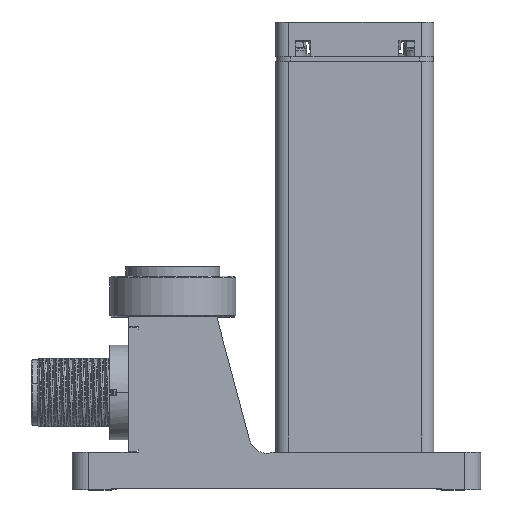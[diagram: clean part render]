
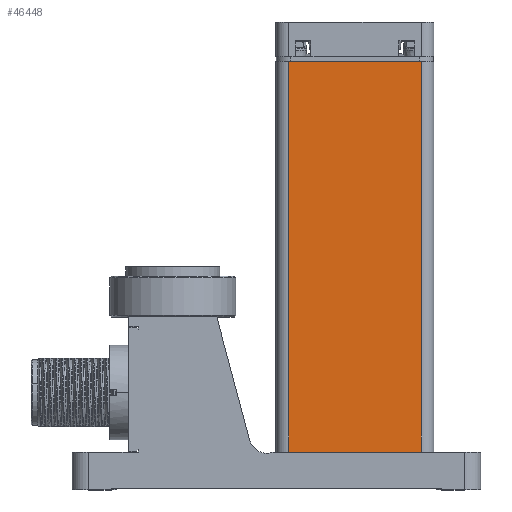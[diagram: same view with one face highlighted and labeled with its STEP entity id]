
A CAD part, top view. The second image highlights one B-rep face of the part: STEP entity #46448.
In plain terms, the highlighted planar face has unit normal (0, 0, 1).
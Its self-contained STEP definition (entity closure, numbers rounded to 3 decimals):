
#109=DIRECTION('',(1.,0.,0.));
#110=VECTOR('',#109,21.15);
#111=CARTESIAN_POINT('',(-10.575,-9.7,12.575));
#112=LINE('',#111,#110);
#14314=DIRECTION('',(0.,-1.,0.));
#14315=VECTOR('',#14314,62.2);
#14316=CARTESIAN_POINT('',(-10.575,52.5,12.575));
#14317=LINE('',#14316,#14315);
#14318=DIRECTION('',(-1.,0.,0.));
#14319=VECTOR('',#14318,21.15);
#14320=CARTESIAN_POINT('',(10.575,52.5,12.575));
#14321=LINE('',#14320,#14319);
#14322=DIRECTION('',(0.,1.,0.));
#14323=VECTOR('',#14322,62.2);
#14324=CARTESIAN_POINT('',(10.575,-9.7,12.575));
#14325=LINE('',#14324,#14323);
#19644=CARTESIAN_POINT('',(10.575,52.5,12.575));
#19646=VERTEX_POINT('',#19644);
#19653=CARTESIAN_POINT('',(-10.575,52.5,12.575));
#19655=VERTEX_POINT('',#19653);
#19672=CARTESIAN_POINT('',(-10.575,-9.7,12.575));
#19673=CARTESIAN_POINT('',(10.575,-9.7,12.575));
#19674=VERTEX_POINT('',#19672);
#19675=VERTEX_POINT('',#19673);
#46437=CARTESIAN_POINT('',(0.,-15.7,12.575));
#46438=DIRECTION('',(0.,0.,1.));
#46439=DIRECTION('',(1.,0.,0.));
#46440=AXIS2_PLACEMENT_3D('',#46437,#46438,#46439);
#46441=PLANE('',#46440);
#46442=ORIENTED_EDGE('',*,*,#20015,.F.);
#46443=ORIENTED_EDGE('',*,*,#46432,.F.);
#46444=ORIENTED_EDGE('',*,*,#19927,.F.);
#46445=ORIENTED_EDGE('',*,*,#19968,.F.);
#46446=EDGE_LOOP('',(#46442,#46443,#46444,#46445));
#46447=FACE_OUTER_BOUND('',#46446,.F.);
#46448=ADVANCED_FACE('',(#46447),#46441,.T.);
#19927=EDGE_CURVE('',#19646,#19655,#14321,.T.);
#19968=EDGE_CURVE('',#19675,#19646,#14325,.T.);
#20015=EDGE_CURVE('',#19674,#19675,#112,.T.);
#46432=EDGE_CURVE('',#19655,#19674,#14317,.T.);
